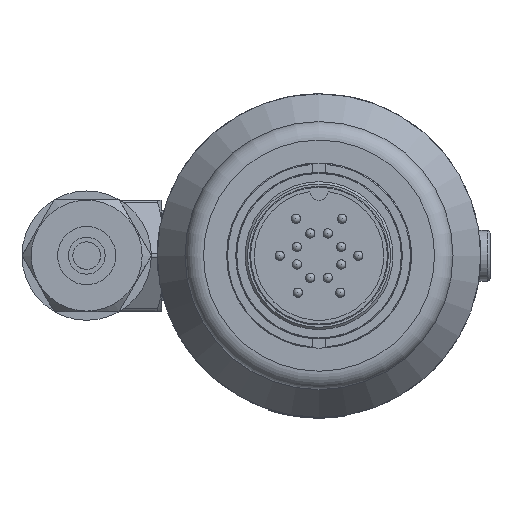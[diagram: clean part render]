
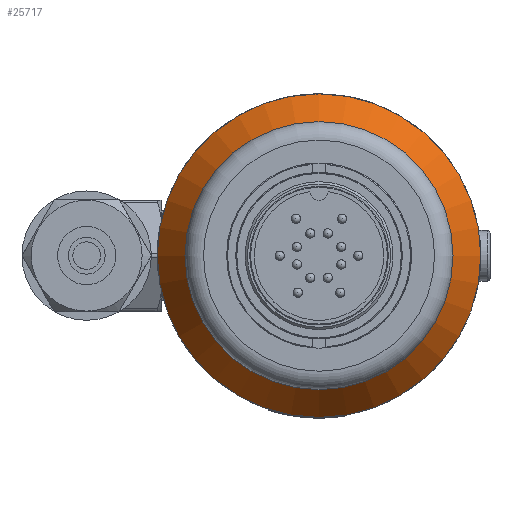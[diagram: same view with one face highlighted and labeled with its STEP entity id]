
A CAD part, left-side view. The second image highlights one B-rep face of the part: STEP entity #25717.
In plain terms, the highlighted conical face has half-angle 33.69 degrees and reference radius 17.5 mm.
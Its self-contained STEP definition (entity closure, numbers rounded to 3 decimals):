
#6272=CONICAL_SURFACE('',#28829,17.5,0.588);
#6523=FACE_BOUND('',#10240,.T.);
#7053=CIRCLE('',#28830,14.5);
#7054=CIRCLE('',#28831,17.5);
#8512=FACE_OUTER_BOUND('',#10239,.T.);
#10239=EDGE_LOOP('',(#22834));
#10240=EDGE_LOOP('',(#22835));
#13031=VERTEX_POINT('',#47589);
#13032=VERTEX_POINT('',#47591);
#16405=EDGE_CURVE('',#13031,#13031,#7053,.T.);
#16406=EDGE_CURVE('',#13032,#13032,#7054,.T.);
#22834=ORIENTED_EDGE('',*,*,#16405,.F.);
#22835=ORIENTED_EDGE('',*,*,#16406,.T.);
#25717=ADVANCED_FACE('',(#8512,#6523),#6272,.T.);
#28829=AXIS2_PLACEMENT_3D('',#47588,#36034,#36035);
#28830=AXIS2_PLACEMENT_3D('',#47590,#36036,#36037);
#28831=AXIS2_PLACEMENT_3D('',#47592,#36038,#36039);
#36034=DIRECTION('center_axis',(1.,0.,0.));
#36035=DIRECTION('ref_axis',(0.,0.,-1.));
#36036=DIRECTION('center_axis',(-1.,0.,0.));
#36037=DIRECTION('ref_axis',(0.,0.,1.));
#36038=DIRECTION('center_axis',(-1.,0.,0.));
#36039=DIRECTION('ref_axis',(0.,0.,1.));
#47588=CARTESIAN_POINT('Origin',(10.,0.,0.));
#47589=CARTESIAN_POINT('',(5.5,0.,-14.5));
#47590=CARTESIAN_POINT('Origin',(5.5,0.,0.));
#47591=CARTESIAN_POINT('',(10.,0.,-17.5));
#47592=CARTESIAN_POINT('Origin',(10.,0.,0.));
